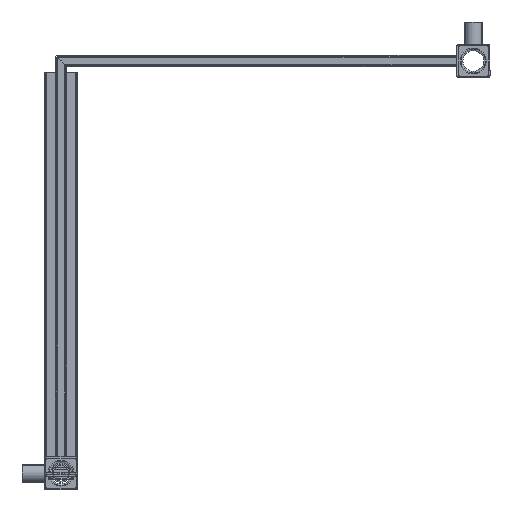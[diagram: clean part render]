
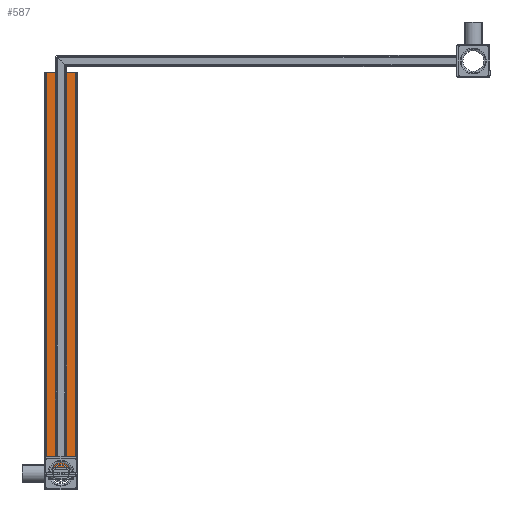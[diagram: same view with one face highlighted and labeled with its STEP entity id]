
A CAD part, front view. The second image highlights one B-rep face of the part: STEP entity #587.
In plain terms, the highlighted planar face has unit normal (0, -1, 0) as drawn and (0, 0, 1) by its records, which use the part's own axes.
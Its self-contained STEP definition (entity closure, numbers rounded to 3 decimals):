
#587 = ADVANCED_FACE( '', ( #1373 ), #1374, .T. );
#1373 = FACE_OUTER_BOUND( '', #2448, .T. );
#1374 = PLANE( '', #2449 );
#2448 = EDGE_LOOP( '', ( #4131, #4132, #4133, #4134 ) );
#2449 = AXIS2_PLACEMENT_3D( '', #4135, #4136, #4137 );
#4131 = ORIENTED_EDGE( '', *, *, #6307, .F. );
#4132 = ORIENTED_EDGE( '', *, *, #6666, .T. );
#4133 = ORIENTED_EDGE( '', *, *, #6379, .F. );
#4134 = ORIENTED_EDGE( '', *, *, #6667, .T. );
#4135 = CARTESIAN_POINT( '', ( 15., 389.28, 5. ) );
#4136 = DIRECTION( '', ( 0., 0., 1. ) );
#4137 = DIRECTION( '', ( 1., 0., 0. ) );
#6307 = EDGE_CURVE( '', #7602, #7604, #7605, .T. );
#6379 = EDGE_CURVE( '', #7728, #7708, #7730, .T. );
#6666 = EDGE_CURVE( '', #7602, #7708, #8193, .F. );
#6667 = EDGE_CURVE( '', #7728, #7604, #8194, .T. );
#7602 = VERTEX_POINT( '', #9431 );
#7604 = VERTEX_POINT( '', #9433 );
#7605 = LINE( '', #9434, #9435 );
#7708 = VERTEX_POINT( '', #9570 );
#7728 = VERTEX_POINT( '', #9596 );
#7730 = LINE( '', #9598, #9599 );
#8193 = LINE( '', #10230, #10231 );
#8194 = LINE( '', #10232, #10233 );
#9431 = CARTESIAN_POINT( '', ( 13., 25., 5. ) );
#9433 = CARTESIAN_POINT( '', ( -13., 25., 5. ) );
#9434 = CARTESIAN_POINT( '', ( 15., 25., 5. ) );
#9435 = VECTOR( '', #11602, 1000. );
#9570 = CARTESIAN_POINT( '', ( 13., 380., 5. ) );
#9596 = CARTESIAN_POINT( '', ( -13., 380., 5. ) );
#9598 = CARTESIAN_POINT( '', ( -15., 380., 5. ) );
#9599 = VECTOR( '', #11707, 1000. );
#10230 = CARTESIAN_POINT( '', ( 13., 389.28, 5. ) );
#10231 = VECTOR( '', #12051, 1000. );
#10232 = CARTESIAN_POINT( '', ( -13., 389.28, 5. ) );
#10233 = VECTOR( '', #12052, 1000. );
#11602 = DIRECTION( '', ( -1., 0., 0. ) );
#11707 = DIRECTION( '', ( 1., 0., 0. ) );
#12051 = DIRECTION( '', ( 0., -1., 0. ) );
#12052 = DIRECTION( '', ( 0., -1., 0. ) );
